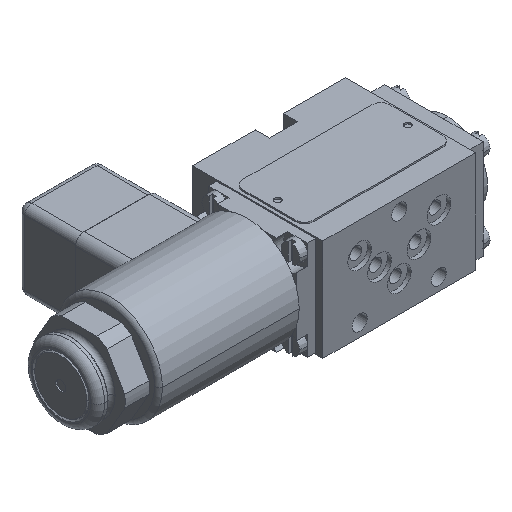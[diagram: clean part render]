
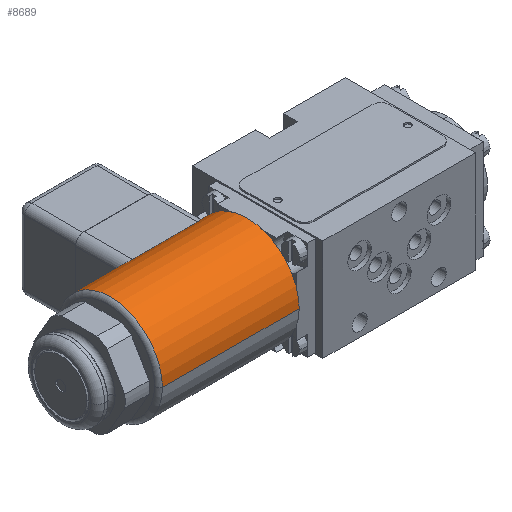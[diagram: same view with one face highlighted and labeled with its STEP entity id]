
A CAD part, isometric view. The second image highlights one B-rep face of the part: STEP entity #8689.
In plain terms, the highlighted cylindrical face has radius 18.5 mm (diameter 37 mm), a partial arc.
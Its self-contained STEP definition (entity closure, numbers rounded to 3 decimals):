
#7125=DIRECTION('',(1.,0.,0.));
#7126=VECTOR('',#7125,1.5);
#7127=CARTESIAN_POINT('',(1.5,16.608,-8.15));
#7128=LINE('',#7127,#7126);
#7132=CARTESIAN_POINT('',(0.5,0.,0.));
#7133=DIRECTION('',(1.,0.,0.));
#7134=DIRECTION('',(0.,0.922,-0.386));
#7135=AXIS2_PLACEMENT_3D('',#7132,#7133,#7134);
#7140=DIRECTION('',(-1.,0.,0.));
#7141=VECTOR('',#7140,0.5);
#7142=CARTESIAN_POINT('',(0.5,18.5,0.));
#7143=LINE('',#7142,#7141);
#7147=DIRECTION('',(-1.,0.,0.));
#7148=VECTOR('',#7147,48.368);
#7149=CARTESIAN_POINT('',(48.368,-18.5,0.));
#7150=LINE('',#7149,#7148);
#7154=CARTESIAN_POINT('',(48.368,0.,0.));
#7155=DIRECTION('',(-1.,0.,0.));
#7156=DIRECTION('',(0.,1.,0.));
#7157=AXIS2_PLACEMENT_3D('',#7154,#7155,#7156);
#7162=DIRECTION('',(-1.,0.,0.));
#7163=VECTOR('',#7162,16.368);
#7164=CARTESIAN_POINT('',(48.368,18.5,0.));
#7165=LINE('',#7164,#7163);
#7169=CARTESIAN_POINT('',(32.,0.,0.));
#7170=DIRECTION('',(1.,0.,0.));
#7171=DIRECTION('',(0.,0.783,-0.622));
#7172=AXIS2_PLACEMENT_3D('',#7169,#7170,#7171);
#7177=CARTESIAN_POINT('',(32.,14.491,-11.5));
#7178=CARTESIAN_POINT('',(32.,14.417,-11.594));
#7179=CARTESIAN_POINT('',(31.991,14.263,-11.784));
#7180=CARTESIAN_POINT('',(31.949,14.016,-12.076));
#7181=CARTESIAN_POINT('',(31.878,13.762,-12.366));
#7182=CARTESIAN_POINT('',(31.777,13.504,-12.647));
#7183=CARTESIAN_POINT('',(31.65,13.247,-12.916));
#7184=CARTESIAN_POINT('',(31.5,12.997,-13.167));
#7185=CARTESIAN_POINT('',(31.331,12.761,-13.395));
#7186=CARTESIAN_POINT('',(31.146,12.54,-13.602));
#7187=CARTESIAN_POINT('',(30.95,12.339,-13.785));
#7188=CARTESIAN_POINT('',(30.748,12.16,-13.943));
#7189=CARTESIAN_POINT('',(30.542,12.004,-14.077));
#7190=CARTESIAN_POINT('',(30.338,11.872,-14.188));
#7191=CARTESIAN_POINT('',(30.137,11.763,-14.279));
#7192=CARTESIAN_POINT('',(29.94,11.674,-14.352));
#7193=CARTESIAN_POINT('',(29.746,11.604,-14.408));
#7194=CARTESIAN_POINT('',(29.556,11.552,-14.45));
#7195=CARTESIAN_POINT('',(29.37,11.515,-14.479));
#7196=CARTESIAN_POINT('',(29.184,11.494,-14.496));
#7197=CARTESIAN_POINT('',(29.061,11.489,-14.5));
#7198=CARTESIAN_POINT('',(29.,11.489,-14.5));
#7203=DIRECTION('',(1.,0.,0.));
#7204=VECTOR('',#7203,23.);
#7205=CARTESIAN_POINT('',(6.,11.489,-14.5));
#7206=LINE('',#7205,#7204);
#7210=CARTESIAN_POINT('',(6.,11.489,-14.5));
#7211=CARTESIAN_POINT('',(5.939,11.489,-14.5));
#7212=CARTESIAN_POINT('',(5.816,11.494,-14.496));
#7213=CARTESIAN_POINT('',(5.63,11.515,-14.479));
#7214=CARTESIAN_POINT('',(5.444,11.552,-14.45));
#7215=CARTESIAN_POINT('',(5.254,11.604,-14.408));
#7216=CARTESIAN_POINT('',(5.06,11.674,-14.352));
#7217=CARTESIAN_POINT('',(4.863,11.763,-14.279));
#7218=CARTESIAN_POINT('',(4.662,11.872,-14.188));
#7219=CARTESIAN_POINT('',(4.458,12.004,-14.077));
#7220=CARTESIAN_POINT('',(4.252,12.16,-13.943));
#7221=CARTESIAN_POINT('',(4.05,12.339,-13.785));
#7222=CARTESIAN_POINT('',(3.854,12.54,-13.602));
#7223=CARTESIAN_POINT('',(3.669,12.761,-13.395));
#7224=CARTESIAN_POINT('',(3.5,12.997,-13.167));
#7225=CARTESIAN_POINT('',(3.35,13.247,-12.916));
#7226=CARTESIAN_POINT('',(3.223,13.504,-12.647));
#7227=CARTESIAN_POINT('',(3.122,13.762,-12.366));
#7228=CARTESIAN_POINT('',(3.051,14.016,-12.077));
#7229=CARTESIAN_POINT('',(3.009,14.263,-11.784));
#7230=CARTESIAN_POINT('',(3.,14.417,-11.594));
#7231=CARTESIAN_POINT('',(3.,14.491,-11.5));
#7236=CARTESIAN_POINT('',(3.,0.,0.));
#7237=DIRECTION('',(1.,0.,0.));
#7238=DIRECTION('',(0.,0.783,-0.622));
#7239=AXIS2_PLACEMENT_3D('',#7236,#7237,#7238);
#7258=CARTESIAN_POINT('',(0.5,17.062,-7.15));
#7259=CARTESIAN_POINT('',(0.5,17.047,-7.187));
#7260=CARTESIAN_POINT('',(0.504,17.016,
-7.26));
#7261=CARTESIAN_POINT('',(0.522,16.969,
-7.369));
#7262=CARTESIAN_POINT('',(0.552,16.923,
-7.475));
#7263=CARTESIAN_POINT('',(0.593,16.878,
-7.575));
#7264=CARTESIAN_POINT('',(0.644,16.835,
-7.671));
#7265=CARTESIAN_POINT('',(0.705,16.794,
-7.76));
#7266=CARTESIAN_POINT('',(0.775,16.756,
-7.841));
#7267=CARTESIAN_POINT('',(0.851,16.722,
-7.913));
#7268=CARTESIAN_POINT('',(0.933,16.692,
-7.976));
#7269=CARTESIAN_POINT('',(1.021,16.666,-8.03));
#7270=CARTESIAN_POINT('',(1.112,16.645,-8.074));
#7271=CARTESIAN_POINT('',(1.206,16.629,-8.108));
#7272=CARTESIAN_POINT('',(1.304,16.617,-8.132));
#7273=CARTESIAN_POINT('',(1.402,16.61,-8.147));
#7274=CARTESIAN_POINT('',(1.468,16.608,-8.15));
#7275=CARTESIAN_POINT('',(1.5,16.608,-8.15));
#7634=CARTESIAN_POINT('',(0.,0.,0.));
#7635=DIRECTION('',(-1.,0.,0.));
#7636=DIRECTION('',(0.,1.,0.));
#7637=AXIS2_PLACEMENT_3D('',#7634,#7635,#7636);
#7666=CARTESIAN_POINT('',(48.368,-18.5,0.));
#7667=CARTESIAN_POINT('',(0.,-18.5,0.));
#7668=VERTEX_POINT('',#7666);
#7669=VERTEX_POINT('',#7667);
#7675=CARTESIAN_POINT('',(32.,18.5,0.));
#7676=VERTEX_POINT('',#7675);
#7678=CARTESIAN_POINT('',(32.,14.491,-11.5));
#7679=VERTEX_POINT('',#7678);
#7680=VERTEX_POINT('',#7198);
#7681=CARTESIAN_POINT('',(6.,11.489,-14.5));
#7682=VERTEX_POINT('',#7681);
#7683=VERTEX_POINT('',#7231);
#7684=CARTESIAN_POINT('',(48.368,18.5,0.));
#7685=VERTEX_POINT('',#7684);
#7686=CARTESIAN_POINT('',(0.,18.5,0.));
#7687=VERTEX_POINT('',#7686);
#7712=CARTESIAN_POINT('',(3.,16.608,-8.15));
#7713=VERTEX_POINT('',#7712);
#7723=CARTESIAN_POINT('',(1.5,16.608,-8.15));
#7725=VERTEX_POINT('',#7723);
#7727=CARTESIAN_POINT('',(0.5,17.062,-7.15));
#7728=VERTEX_POINT('',#7727);
#7729=CARTESIAN_POINT('',(0.5,18.5,0.));
#7730=VERTEX_POINT('',#7729);
#8661=CARTESIAN_POINT('',(-2.47,0.,0.));
#8662=DIRECTION('',(1.,0.,0.));
#8663=DIRECTION('',(0.,-1.,0.));
#8664=AXIS2_PLACEMENT_3D('',#8661,#8662,#8663);
#8665=CYLINDRICAL_SURFACE('',#8664,18.5);
#8667=ORIENTED_EDGE('',*,*,#8666,.F.);
#8669=ORIENTED_EDGE('',*,*,#8668,.F.);
#8671=ORIENTED_EDGE('',*,*,#8670,.T.);
#8673=ORIENTED_EDGE('',*,*,#8672,.T.);
#8675=ORIENTED_EDGE('',*,*,#8674,.T.);
#8677=ORIENTED_EDGE('',*,*,#8676,.F.);
#8679=ORIENTED_EDGE('',*,*,#8678,.F.);
#8681=ORIENTED_EDGE('',*,*,#8680,.T.);
#8682=ORIENTED_EDGE('',*,*,#8564,.F.);
#8683=ORIENTED_EDGE('',*,*,#8592,.T.);
#8684=ORIENTED_EDGE('',*,*,#8618,.F.);
#8685=ORIENTED_EDGE('',*,*,#8643,.T.);
#8686=ORIENTED_EDGE('',*,*,#8459,.T.);
#8687=EDGE_LOOP('',(#8667,#8669,#8671,#8673,#8675,#8677,#8679,#8681,#8682,#8683,
#8684,#8685,#8686));
#8688=FACE_OUTER_BOUND('',#8687,.F.);
#7136=CIRCLE('',#7135,18.5);
#7158=CIRCLE('',#7157,18.5);
#7173=CIRCLE('',#7172,18.5);
#7199=B_SPLINE_CURVE_WITH_KNOTS('',3,(#7177,#7178,#7179,#7180,#7181,#7182,#7183,
#7184,#7185,#7186,#7187,#7188,#7189,#7190,#7191,#7192,#7193,#7194,#7195,#7196,
#7197,#7198),.UNSPECIFIED.,.F.,.F.,(4,1,1,1,1,1,1,1,1,1,1,1,1,1,1,1,1,1,1,4),(
0.,0.053,0.105,0.158,0.211,
0.263,0.316,0.368,0.421,
0.474,0.526,0.579,0.632,
0.684,0.737,0.789,0.842,
0.895,0.947,1.),.UNSPECIFIED.);
#7232=B_SPLINE_CURVE_WITH_KNOTS('',3,(#7210,#7211,#7212,#7213,#7214,#7215,#7216,
#7217,#7218,#7219,#7220,#7221,#7222,#7223,#7224,#7225,#7226,#7227,#7228,#7229,
#7230,#7231),.UNSPECIFIED.,.F.,.F.,(4,1,1,1,1,1,1,1,1,1,1,1,1,1,1,1,1,1,1,4),(
0.,0.053,0.105,0.158,0.211,
0.263,0.316,0.368,0.421,
0.474,0.526,0.579,0.632,
0.684,0.737,0.789,0.842,
0.895,0.947,1.),.UNSPECIFIED.);
#7240=CIRCLE('',#7239,18.5);
#7276=B_SPLINE_CURVE_WITH_KNOTS('',3,(#7258,#7259,#7260,#7261,#7262,#7263,#7264,
#7265,#7266,#7267,#7268,#7269,#7270,#7271,#7272,#7273,#7274,#7275),
.UNSPECIFIED.,.F.,.F.,(4,1,1,1,1,1,1,1,1,1,1,1,1,1,1,4),(0.,0.067,
0.133,0.2,0.267,0.333,0.4,
0.467,0.533,0.6,0.667,0.733,
0.8,0.867,0.933,1.),.UNSPECIFIED.);
#7638=CIRCLE('',#7637,18.5);
#8459=EDGE_CURVE('',#7683,#7713,#7240,.T.);
#8564=EDGE_CURVE('',#7679,#7676,#7173,.T.);
#8592=EDGE_CURVE('',#7679,#7680,#7199,.T.);
#8618=EDGE_CURVE('',#7682,#7680,#7206,.T.);
#8643=EDGE_CURVE('',#7682,#7683,#7232,.T.);
#8666=EDGE_CURVE('',#7725,#7713,#7128,.T.);
#8668=EDGE_CURVE('',#7728,#7725,#7276,.T.);
#8670=EDGE_CURVE('',#7728,#7730,#7136,.T.);
#8672=EDGE_CURVE('',#7730,#7687,#7143,.T.);
#8674=EDGE_CURVE('',#7687,#7669,#7638,.T.);
#8676=EDGE_CURVE('',#7668,#7669,#7150,.T.);
#8678=EDGE_CURVE('',#7685,#7668,#7158,.T.);
#8680=EDGE_CURVE('',#7685,#7676,#7165,.T.);
#8689=ADVANCED_FACE('',(#8688),#8665,.T.);
